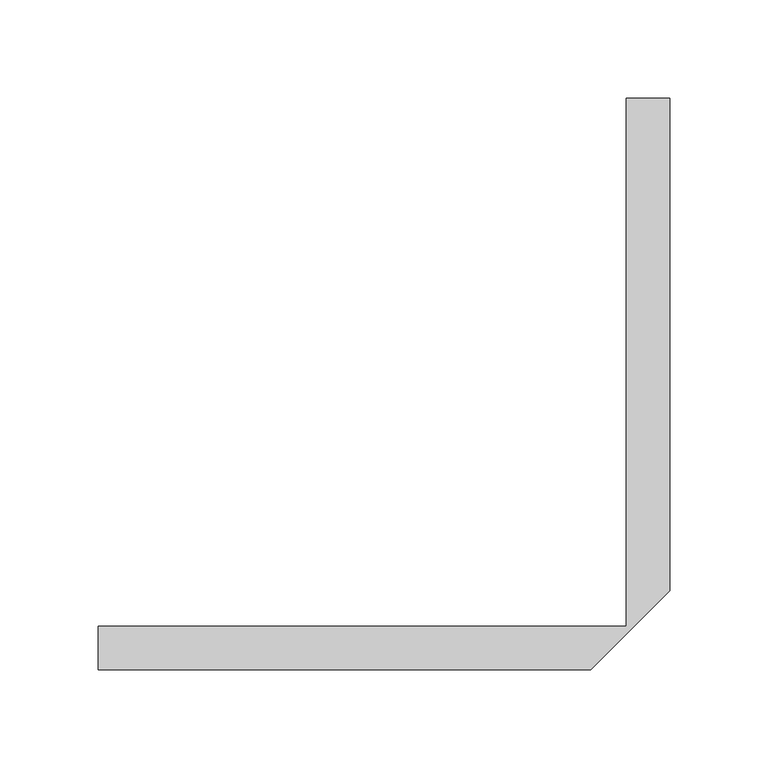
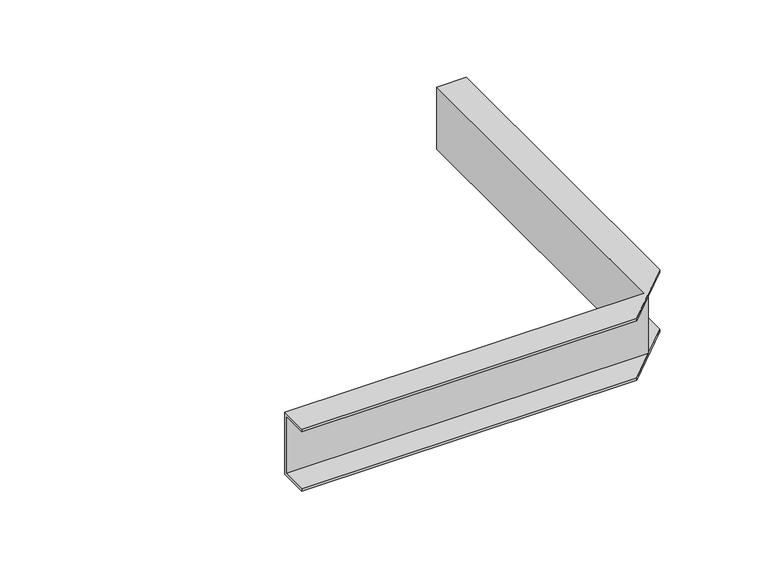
"""IFC4 building model written with IfcOpenShell, lengths in millimetres: cable carrier fitting geometry, BAKS_LD_CONN_Angle connector_LKD : LKDC_H45."""

from ifc_helpers import new_model, si_unit, origin, place, context, project, spatial, faceted_brep, source, transform, mapped, element, save


def cable_carrier_fitting_8fabbff6(model_context):
    return source(origin(), model_context, "Body", "Brep", [
        faceted_brep([(-20.0, -20.0, 24.5), (19.9998598, 20.0001402, 24.5), (19.9981069, 270.0001402, 24.5), (-2.0018931, 269.999986, 24.5), (-2.000014, 2.0, 24.5), (-270.0, 2.0, 24.5), (-270.0, -20.0, 24.5), (-270.0, -20.0, 22.5), (-270.0, 0.0, 22.5), (0.0, 0.0, 22.5), (-20.0, -20.0, 22.5), (-270.0, 2.0, -24.5), (-270.0, -20.0, -24.5), (-270.0, -20.0, -22.5), (-270.0, 0.0, -22.5), (20.0, 20.0, 22.5), (19.9981069, 270.0001402, 22.5), (-0.0018931, 270.0, 22.5), (-0.0018931, 270.0, -22.5), (19.9981069, 270.0001402, -22.5), (19.9981069, 270.0001402, -24.5), (-2.0018931, 269.999986, -24.5), (-2.000014, 2.0, -24.5), (19.9998598, 20.0001402, -24.5), (-20.0, -20.0, -24.5), (0.0, 0.0, -22.5), (-20.0, -20.0, -22.5), (20.0, 20.0, -22.5)], [[[0, 1, 2, 3, 4, 5, 6]], [[7, 8, 9, 10]], [[7, 6, 5, 11, 12, 13, 14, 8]], [[9, 15, 1, 0, 10]], [[6, 7, 10, 0]], [[3, 2, 16, 17, 18, 19, 20, 21]], [[21, 22, 4, 3]], [[20, 23, 24, 12, 11, 22, 21]], [[25, 18, 17, 9]], [[22, 11, 5, 4]], [[8, 14, 25, 9]], [[26, 25, 14, 13]], [[13, 12, 24, 26]], [[26, 24, 23, 27, 25]], [[16, 15, 9, 17]], [[1, 15, 16, 2]], [[27, 19, 18, 25]], [[27, 23, 20, 19]]]),
    ])


if __name__ == "__main__":
    model = new_model("IFC4")
    model_context = context("Model", 3, world=origin())
    ifc_project = project(units=[si_unit("LENGTHUNIT", "METRE", prefix="MILLI")], contexts=[model_context])
    site = spatial("IfcSite", under=ifc_project)
    building = spatial("IfcBuilding", under=site)
    placement = place(None, origin())
    cable_carrier_fitting_shape = cable_carrier_fitting_8fabbff6(model_context)
    element("IfcCableCarrierFitting", 1, ObjectType="BAKS_LD_CONN_Angle connector_LKD : LKDC_H45", at=placement, inside=building, context=model_context, shape_type="MappedRepresentation", body=[
        mapped(cable_carrier_fitting_shape, transform((0.0, 0.0, 0.0), x_axis=(1.0, 0.0, 0.0), y_axis=(0.0, 1.0, 0.0), z_axis=(0.0, 0.0, 1.0))),
    ])
    save(model, "model.ifc")
